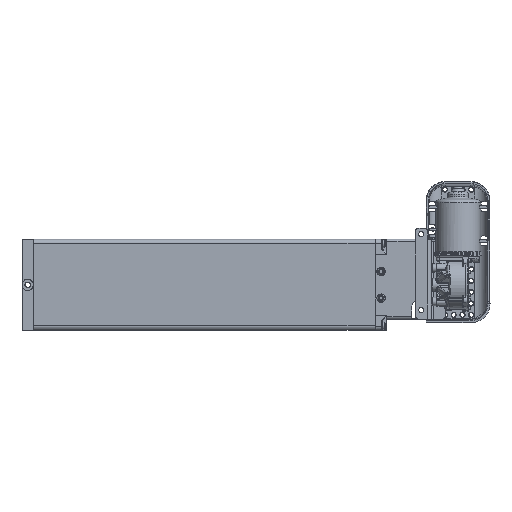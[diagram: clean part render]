
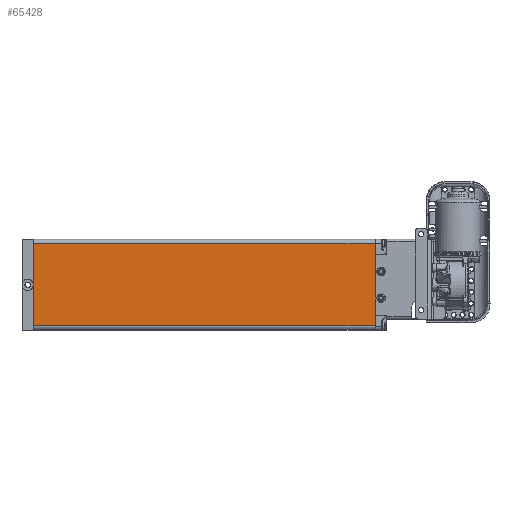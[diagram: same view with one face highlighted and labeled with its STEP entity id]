
A CAD part, top view. The second image highlights one B-rep face of the part: STEP entity #65428.
In plain terms, the highlighted planar face has unit normal (0, 0, 1).
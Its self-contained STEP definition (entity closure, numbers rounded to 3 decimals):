
#5882=LINE('',#112868,#8595);
#5883=LINE('',#112871,#8596);
#5884=LINE('',#112873,#8597);
#5885=LINE('',#112875,#8598);
#8595=VECTOR('',#76264,1000.);
#8596=VECTOR('',#76265,1000.);
#8597=VECTOR('',#76266,1000.);
#8598=VECTOR('',#76267,1000.);
#10697=PLANE('',#69282);
#15840=ORIENTED_EDGE('',*,*,#29676,.T.);
#15841=ORIENTED_EDGE('',*,*,#29677,.T.);
#15842=ORIENTED_EDGE('',*,*,#29678,.T.);
#15843=ORIENTED_EDGE('',*,*,#29679,.T.);
#29676=EDGE_CURVE('',#36821,#36822,#5882,.F.);
#29677=EDGE_CURVE('',#36822,#36823,#5883,.T.);
#29678=EDGE_CURVE('',#36823,#36824,#5884,.T.);
#29679=EDGE_CURVE('',#36824,#36821,#5885,.F.);
#36821=VERTEX_POINT('',#112869);
#36822=VERTEX_POINT('',#112870);
#36823=VERTEX_POINT('',#112872);
#36824=VERTEX_POINT('',#112874);
#43748=EDGE_LOOP('',(#15840,#15841,#15842,#15843));
#47744=FACE_BOUND('',#43748,.T.);
#65428=ADVANCED_FACE('',(#47744),#10697,.T.);
#69282=AXIS2_PLACEMENT_3D('',#112867,#76262,#76263);
#76262=DIRECTION('',(0.,0.,1.));
#76263=DIRECTION('',(1.,0.,0.));
#76264=DIRECTION('',(0.,-1.,0.));
#76265=DIRECTION('',(-1.,0.,0.));
#76266=DIRECTION('',(0.,-1.,0.));
#76267=DIRECTION('',(-1.,0.,0.));
#112867=CARTESIAN_POINT('',(60.,450.5,30.));
#112868=CARTESIAN_POINT('',(54.,450.5,30.));
#112869=CARTESIAN_POINT('',(54.,0.5,30.));
#112870=CARTESIAN_POINT('',(54.,450.,30.));
#112871=CARTESIAN_POINT('',(60.,450.,30.));
#112872=CARTESIAN_POINT('',(-54.,450.,30.));
#112873=CARTESIAN_POINT('',(-54.,450.5,30.));
#112874=CARTESIAN_POINT('',(-54.,0.5,30.));
#112875=CARTESIAN_POINT('',(54.,0.5,30.));
